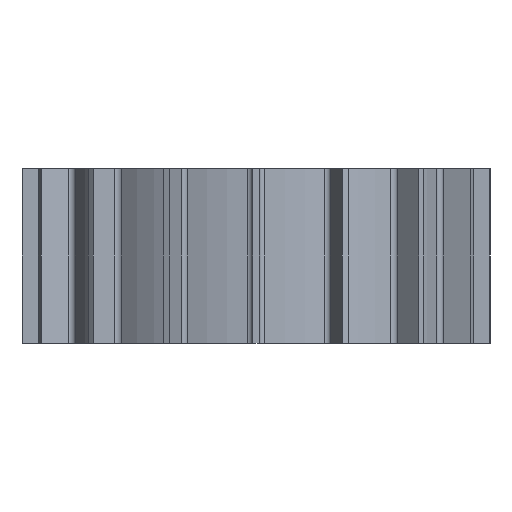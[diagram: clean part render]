
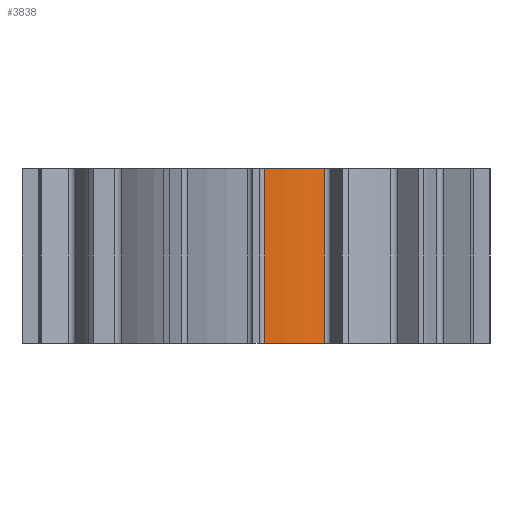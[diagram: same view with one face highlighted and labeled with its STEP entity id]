
A CAD part, front view. The second image highlights one B-rep face of the part: STEP entity #3838.
In plain terms, the highlighted cylindrical face has radius 57 mm (diameter 114 mm), a partial arc.
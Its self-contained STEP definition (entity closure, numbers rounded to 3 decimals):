
#593 = VERTEX_POINT ( 'NONE', #7055 ) ;
#902 = ORIENTED_EDGE ( 'NONE', *, *, #2537, .T. ) ;
#1005 = AXIS2_PLACEMENT_3D ( 'NONE', #5302, #8819, #1042 ) ;
#1042 = DIRECTION ( 'NONE',  ( -1., 0., 0. ) ) ;
#1298 = EDGE_LOOP ( 'NONE', ( #902, #3916, #7646, #1438 ) ) ;
#1438 = ORIENTED_EDGE ( 'NONE', *, *, #4111, .F. ) ;
#1662 = CIRCLE ( 'NONE', #10175, 57. ) ;
#2316 = CARTESIAN_POINT ( 'NONE',  ( 0., 0., 50. ) ) ;
#2371 = DIRECTION ( 'NONE',  ( 1., 0., 0. ) ) ;
#2387 = DIRECTION ( 'NONE',  ( 0., 0., 1. ) ) ;
#2537 = EDGE_CURVE ( 'NONE', #5167, #593, #5624, .T. ) ;
#2679 = FACE_OUTER_BOUND ( 'NONE', #1298, .T. ) ;
#3142 = LINE ( 'NONE', #10974, #10804 ) ;
#3178 = CARTESIAN_POINT ( 'NONE',  ( 0., 0., 0. ) ) ;
#3217 = DIRECTION ( 'NONE',  ( 0., 0., 1. ) ) ;
#3418 = EDGE_CURVE ( 'NONE', #593, #5194, #4461, .T. ) ;
#3838 = ADVANCED_FACE ( 'NONE', ( #2679 ), #8654, .T. ) ;
#3909 = VECTOR ( 'NONE', #8327, 1000. ) ;
#3916 = ORIENTED_EDGE ( 'NONE', *, *, #3418, .T. ) ;
#4111 = EDGE_CURVE ( 'NONE', #5167, #8930, #3142, .T. ) ;
#4461 = LINE ( 'NONE', #6446, #3909 ) ;
#5167 = VERTEX_POINT ( 'NONE', #7988 ) ;
#5194 = VERTEX_POINT ( 'NONE', #6394 ) ;
#5302 = CARTESIAN_POINT ( 'NONE',  ( 0., 0., 50. ) ) ;
#5624 = CIRCLE ( 'NONE', #7076, 57. ) ;
#5862 = CARTESIAN_POINT ( 'NONE',  ( 2.436, -56.948, 50. ) ) ;
#6394 = CARTESIAN_POINT ( 'NONE',  ( 19.543, -53.545, 50. ) ) ;
#6446 = CARTESIAN_POINT ( 'NONE',  ( 19.543, -53.545, -12.709 ) ) ;
#7055 = CARTESIAN_POINT ( 'NONE',  ( 19.543, -53.545, 0. ) ) ;
#7076 = AXIS2_PLACEMENT_3D ( 'NONE', #3178, #2387, #10102 ) ;
#7646 = ORIENTED_EDGE ( 'NONE', *, *, #9138, .F. ) ;
#7988 = CARTESIAN_POINT ( 'NONE',  ( 2.436, -56.948, 0. ) ) ;
#8327 = DIRECTION ( 'NONE',  ( 0., 0., 1. ) ) ;
#8654 = CYLINDRICAL_SURFACE ( 'NONE', #1005, 57. ) ;
#8819 = DIRECTION ( 'NONE',  ( 0., 0., -1. ) ) ;
#8930 = VERTEX_POINT ( 'NONE', #5862 ) ;
#9138 = EDGE_CURVE ( 'NONE', #8930, #5194, #1662, .T. ) ;
#10064 = DIRECTION ( 'NONE',  ( 0., 0., 1. ) ) ;
#10102 = DIRECTION ( 'NONE',  ( 1., 0., 0. ) ) ;
#10175 = AXIS2_PLACEMENT_3D ( 'NONE', #2316, #3217, #2371 ) ;
#10804 = VECTOR ( 'NONE', #10064, 1000. ) ;
#10974 = CARTESIAN_POINT ( 'NONE',  ( 2.436, -56.948, -11.17 ) ) ;
